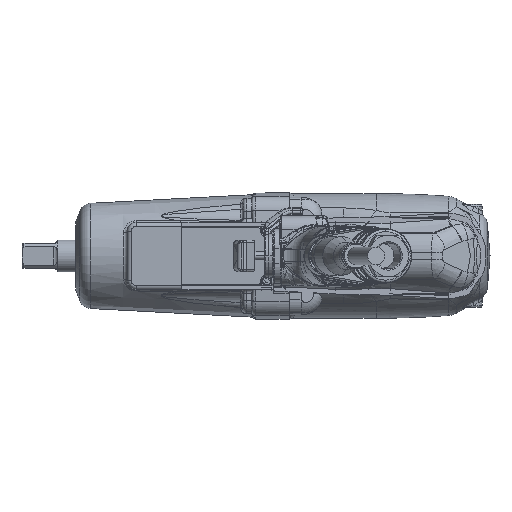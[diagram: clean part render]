
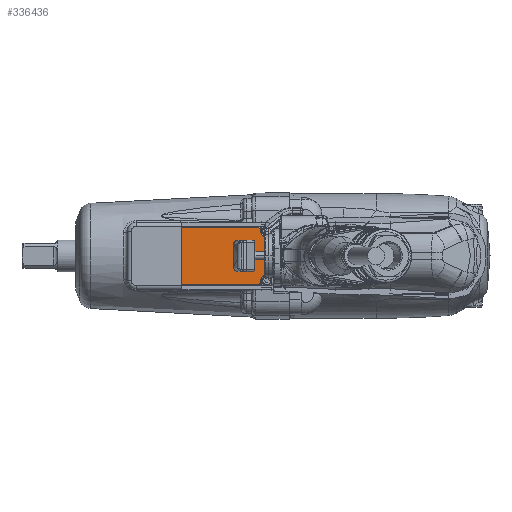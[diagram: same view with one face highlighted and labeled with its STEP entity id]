
A CAD part, front view. The second image highlights one B-rep face of the part: STEP entity #336436.
In plain terms, the highlighted planar face has unit normal (0, -1, 0).
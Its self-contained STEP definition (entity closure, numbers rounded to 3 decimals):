
#25817 = PLANE ( 'NONE',  #77497 ) ;
#25820 = CARTESIAN_POINT ( 'NONE',  ( 0., -37.6, -15. ) ) ;
#25823 = DIRECTION ( 'NONE',  ( 0., -1., 0. ) ) ;
#25826 = DIRECTION ( 'NONE',  ( 0., 0., -1. ) ) ;
#33913 = EDGE_CURVE ( 'NONE', #327210, #327213, #104888, .T. ) ;
#33914 = EDGE_CURVE ( 'NONE', #327213, #327216, #104890, .T. ) ;
#33915 = EDGE_CURVE ( 'NONE', #327216, #327219, #104889, .T. ) ;
#33916 = EDGE_CURVE ( 'NONE', #327219, #327222, #104892, .T. ) ;
#33917 = EDGE_CURVE ( 'NONE', #327222, #327225, #104893, .T. ) ;
#33918 = EDGE_CURVE ( 'NONE', #327225, #327228, #104895, .T. ) ;
#33919 = EDGE_CURVE ( 'NONE', #327228, #327231, #104894, .T. ) ;
#33920 = EDGE_CURVE ( 'NONE', #327231, #327234, #104897, .T. ) ;
#33921 = EDGE_CURVE ( 'NONE', #327234, #327237, #104898, .T. ) ;
#33922 = EDGE_CURVE ( 'NONE', #327237, #327240, #104900, .T. ) ;
#33923 = EDGE_CURVE ( 'NONE', #327240, #327243, #104899, .T. ) ;
#33924 = EDGE_CURVE ( 'NONE', #327243, #327246, #104902, .T. ) ;
#33925 = EDGE_CURVE ( 'NONE', #327246, #327249, #104903, .T. ) ;
#33926 = EDGE_CURVE ( 'NONE', #327249, #327252, #104905, .T. ) ;
#33927 = EDGE_CURVE ( 'NONE', #327252, #327255, #104904, .T. ) ;
#33928 = EDGE_CURVE ( 'NONE', #327255, #327210, #104908, .T. ) ;
#68942 = ORIENTED_EDGE ( 'NONE', *, *, #33913, .T. ) ;
#68944 = ORIENTED_EDGE ( 'NONE', *, *, #33914, .T. ) ;
#68948 = ORIENTED_EDGE ( 'NONE', *, *, #33915, .T. ) ;
#68951 = ORIENTED_EDGE ( 'NONE', *, *, #33916, .T. ) ;
#68953 = ORIENTED_EDGE ( 'NONE', *, *, #33917, .T. ) ;
#68957 = ORIENTED_EDGE ( 'NONE', *, *, #33918, .T. ) ;
#68960 = ORIENTED_EDGE ( 'NONE', *, *, #33919, .T. ) ;
#68963 = ORIENTED_EDGE ( 'NONE', *, *, #33920, .T. ) ;
#68966 = ORIENTED_EDGE ( 'NONE', *, *, #33921, .T. ) ;
#68969 = ORIENTED_EDGE ( 'NONE', *, *, #33922, .T. ) ;
#68972 = ORIENTED_EDGE ( 'NONE', *, *, #33923, .T. ) ;
#68975 = ORIENTED_EDGE ( 'NONE', *, *, #33924, .T. ) ;
#68979 = ORIENTED_EDGE ( 'NONE', *, *, #33925, .T. ) ;
#68981 = ORIENTED_EDGE ( 'NONE', *, *, #33926, .T. ) ;
#68984 = ORIENTED_EDGE ( 'NONE', *, *, #33927, .T. ) ;
#68988 = ORIENTED_EDGE ( 'NONE', *, *, #33928, .T. ) ;
#77497 = AXIS2_PLACEMENT_3D ( 'NONE', #25820, #25823, #25826 ) ;
#91759 = AXIS2_PLACEMENT_3D ( 'NONE', #131969, #131970, #131971 ) ;
#91764 = AXIS2_PLACEMENT_3D ( 'NONE', #131972, #131973, #131974 ) ;
#91769 = AXIS2_PLACEMENT_3D ( 'NONE', #131977, #131978, #131979 ) ;
#91773 = AXIS2_PLACEMENT_3D ( 'NONE', #131980, #131981, #131982 ) ;
#91778 = AXIS2_PLACEMENT_3D ( 'NONE', #131983, #131984, #131985 ) ;
#91784 = AXIS2_PLACEMENT_3D ( 'NONE', #131988, #131989, #131990 ) ;
#91788 = AXIS2_PLACEMENT_3D ( 'NONE', #131991, #131992, #131993 ) ;
#91793 = AXIS2_PLACEMENT_3D ( 'NONE', #131994, #131995, #131996 ) ;
#91798 = AXIS2_PLACEMENT_3D ( 'NONE', #131999, #132000, #132001 ) ;
#91803 = AXIS2_PLACEMENT_3D ( 'NONE', #132002, #132003, #132004 ) ;
#91808 = AXIS2_PLACEMENT_3D ( 'NONE', #132005, #132006, #132007 ) ;
#91813 = AXIS2_PLACEMENT_3D ( 'NONE', #132010, #132011, #132012 ) ;
#104888 = CIRCLE ( 'NONE', #91759, 3. ) ;
#104889 = LINE ( 'NONE', #131975, #104891 ) ;
#104890 = CIRCLE ( 'NONE', #91764, 2. ) ;
#104891 = VECTOR ( 'NONE', #131976, 1000. ) ;
#104892 = CIRCLE ( 'NONE', #91769, 2. ) ;
#104893 = CIRCLE ( 'NONE', #91773, 3. ) ;
#104894 = LINE ( 'NONE', #131986, #104896 ) ;
#104895 = CIRCLE ( 'NONE', #91778, 2. ) ;
#104896 = VECTOR ( 'NONE', #131987, 1000. ) ;
#104897 = CIRCLE ( 'NONE', #91784, 2. ) ;
#104898 = CIRCLE ( 'NONE', #91788, 3. ) ;
#104899 = LINE ( 'NONE', #131997, #104901 ) ;
#104900 = CIRCLE ( 'NONE', #91793, 2. ) ;
#104901 = VECTOR ( 'NONE', #131998, 1000. ) ;
#104902 = CIRCLE ( 'NONE', #91798, 2. ) ;
#104903 = CIRCLE ( 'NONE', #91803, 3. ) ;
#104904 = LINE ( 'NONE', #132008, #104906 ) ;
#104905 = CIRCLE ( 'NONE', #91808, 2. ) ;
#104906 = VECTOR ( 'NONE', #132009, 1000. ) ;
#104908 = CIRCLE ( 'NONE', #91813, 2. ) ;
#131969 = CARTESIAN_POINT ( 'NONE',  ( -2.5, -37.6, -12.5 ) ) ;
#131970 = DIRECTION ( 'NONE',  ( 0., 1., 0. ) ) ;
#131971 = DIRECTION ( 'NONE',  ( 0., 0., -1. ) ) ;
#131972 = CARTESIAN_POINT ( 'NONE',  ( -2.5, -37.6, -7.5 ) ) ;
#131973 = DIRECTION ( 'NONE',  ( 0., -1., 0. ) ) ;
#131974 = DIRECTION ( 'NONE',  ( 0., 0., -1. ) ) ;
#131975 = CARTESIAN_POINT ( 'NONE',  ( -0.5, -37.6, 7.5 ) ) ;
#131976 = DIRECTION ( 'NONE',  ( 0., 0., 1. ) ) ;
#131977 = CARTESIAN_POINT ( 'NONE',  ( -2.5, -37.6, 7.5 ) ) ;
#131978 = DIRECTION ( 'NONE',  ( 0., -1., 0. ) ) ;
#131979 = DIRECTION ( 'NONE',  ( 0., 0., -1. ) ) ;
#131980 = CARTESIAN_POINT ( 'NONE',  ( -2.5, -37.6, 12.5 ) ) ;
#131981 = DIRECTION ( 'NONE',  ( 0., 1., 0. ) ) ;
#131982 = DIRECTION ( 'NONE',  ( 0., 0., -1. ) ) ;
#131983 = CARTESIAN_POINT ( 'NONE',  ( -7.5, -37.6, 12.5 ) ) ;
#131984 = DIRECTION ( 'NONE',  ( 0., -1., 0. ) ) ;
#131985 = DIRECTION ( 'NONE',  ( 0., 0., -1. ) ) ;
#131986 = CARTESIAN_POINT ( 'NONE',  ( -63.5, -37.6, 14.5 ) ) ;
#131987 = DIRECTION ( 'NONE',  ( -1., 0., 0. ) ) ;
#131988 = CARTESIAN_POINT ( 'NONE',  ( -63.5, -37.6, 12.5 ) ) ;
#131989 = DIRECTION ( 'NONE',  ( 0., -1., 0. ) ) ;
#131990 = DIRECTION ( 'NONE',  ( 0., 0., -1. ) ) ;
#131991 = CARTESIAN_POINT ( 'NONE',  ( -68.5, -37.6, 12.5 ) ) ;
#131992 = DIRECTION ( 'NONE',  ( 0., 1., 0. ) ) ;
#131993 = DIRECTION ( 'NONE',  ( 0., 0., -1. ) ) ;
#131994 = CARTESIAN_POINT ( 'NONE',  ( -68.5, -37.6, 7.5 ) ) ;
#131995 = DIRECTION ( 'NONE',  ( 0., -1., 0. ) ) ;
#131996 = DIRECTION ( 'NONE',  ( 0., 0., -1. ) ) ;
#131997 = CARTESIAN_POINT ( 'NONE',  ( -70.5, -37.6, -7.5 ) ) ;
#131998 = DIRECTION ( 'NONE',  ( 0., 0., -1. ) ) ;
#131999 = CARTESIAN_POINT ( 'NONE',  ( -68.5, -37.6, -7.5 ) ) ;
#132000 = DIRECTION ( 'NONE',  ( 0., -1., 0. ) ) ;
#132001 = DIRECTION ( 'NONE',  ( 0., 0., -1. ) ) ;
#132002 = CARTESIAN_POINT ( 'NONE',  ( -68.5, -37.6, -12.5 ) ) ;
#132003 = DIRECTION ( 'NONE',  ( 0., 1., 0. ) ) ;
#132004 = DIRECTION ( 'NONE',  ( 0., 0., -1. ) ) ;
#132005 = CARTESIAN_POINT ( 'NONE',  ( -63.5, -37.6, -12.5 ) ) ;
#132006 = DIRECTION ( 'NONE',  ( 0., -1., 0. ) ) ;
#132007 = DIRECTION ( 'NONE',  ( 0., 0., -1. ) ) ;
#132008 = CARTESIAN_POINT ( 'NONE',  ( -7.5, -37.6, -14.5 ) ) ;
#132009 = DIRECTION ( 'NONE',  ( 1., 0., 0. ) ) ;
#132010 = CARTESIAN_POINT ( 'NONE',  ( -7.5, -37.6, -12.5 ) ) ;
#132011 = DIRECTION ( 'NONE',  ( 0., -1., 0. ) ) ;
#132012 = DIRECTION ( 'NONE',  ( 0., 0., -1. ) ) ;
#202816 = FACE_OUTER_BOUND ( 'NONE', #342875, .T. ) ;
#228735 = CARTESIAN_POINT ( 'NONE',  ( -5.5, -37.6, -12.5 ) ) ;
#228736 = CARTESIAN_POINT ( 'NONE',  ( -2.5, -37.6, -9.5 ) ) ;
#228737 = CARTESIAN_POINT ( 'NONE',  ( -0.5, -37.6, -7.5 ) ) ;
#228738 = CARTESIAN_POINT ( 'NONE',  ( -0.5, -37.6, 7.5 ) ) ;
#228739 = CARTESIAN_POINT ( 'NONE',  ( -2.5, -37.6, 9.5 ) ) ;
#228740 = CARTESIAN_POINT ( 'NONE',  ( -5.5, -37.6, 12.5 ) ) ;
#228741 = CARTESIAN_POINT ( 'NONE',  ( -7.5, -37.6, 14.5 ) ) ;
#228742 = CARTESIAN_POINT ( 'NONE',  ( -63.5, -37.6, 14.5 ) ) ;
#228743 = CARTESIAN_POINT ( 'NONE',  ( -65.5, -37.6, 12.5 ) ) ;
#228744 = CARTESIAN_POINT ( 'NONE',  ( -68.5, -37.6, 9.5 ) ) ;
#228745 = CARTESIAN_POINT ( 'NONE',  ( -70.5, -37.6, 7.5 ) ) ;
#228746 = CARTESIAN_POINT ( 'NONE',  ( -70.5, -37.6, -7.5 ) ) ;
#228747 = CARTESIAN_POINT ( 'NONE',  ( -68.5, -37.6, -9.5 ) ) ;
#228748 = CARTESIAN_POINT ( 'NONE',  ( -65.5, -37.6, -12.5 ) ) ;
#228749 = CARTESIAN_POINT ( 'NONE',  ( -63.5, -37.6, -14.5 ) ) ;
#228750 = CARTESIAN_POINT ( 'NONE',  ( -7.5, -37.6, -14.5 ) ) ;
#327210 = VERTEX_POINT ( 'NONE', #228735 ) ;
#327213 = VERTEX_POINT ( 'NONE', #228736 ) ;
#327216 = VERTEX_POINT ( 'NONE', #228737 ) ;
#327219 = VERTEX_POINT ( 'NONE', #228738 ) ;
#327222 = VERTEX_POINT ( 'NONE', #228739 ) ;
#327225 = VERTEX_POINT ( 'NONE', #228740 ) ;
#327228 = VERTEX_POINT ( 'NONE', #228741 ) ;
#327231 = VERTEX_POINT ( 'NONE', #228742 ) ;
#327234 = VERTEX_POINT ( 'NONE', #228743 ) ;
#327237 = VERTEX_POINT ( 'NONE', #228744 ) ;
#327240 = VERTEX_POINT ( 'NONE', #228745 ) ;
#327243 = VERTEX_POINT ( 'NONE', #228746 ) ;
#327246 = VERTEX_POINT ( 'NONE', #228747 ) ;
#327249 = VERTEX_POINT ( 'NONE', #228748 ) ;
#327252 = VERTEX_POINT ( 'NONE', #228749 ) ;
#327255 = VERTEX_POINT ( 'NONE', #228750 ) ;
#336436 = ADVANCED_FACE ( 'NONE', ( #202816 ), #25817, .T. ) ;
#342875 = EDGE_LOOP ( 'NONE', ( #68942, #68944, #68948, #68951, #68953, #68957, #68960, #68963, #68966, #68969, #68972, #68975, #68979, #68981, #68984, #68988 ) ) ;
